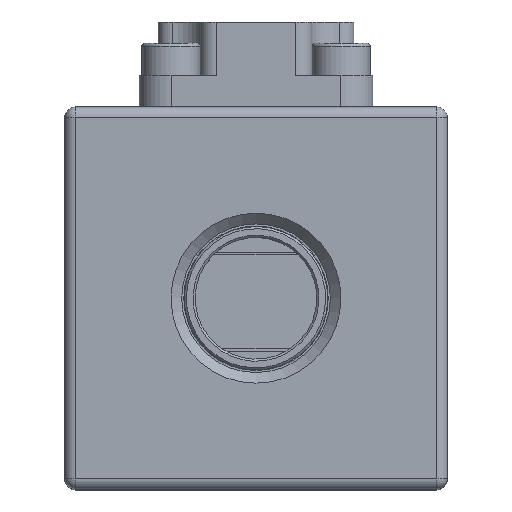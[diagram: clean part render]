
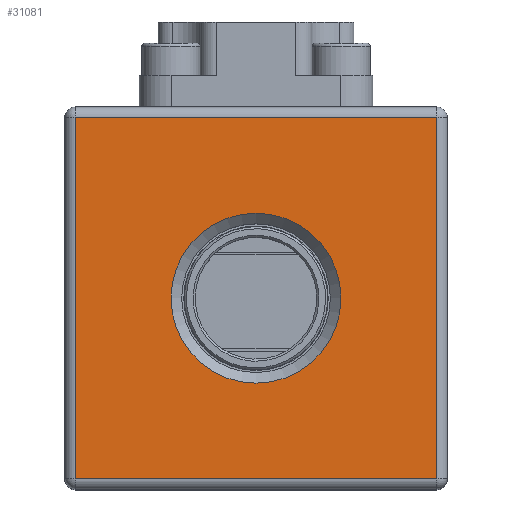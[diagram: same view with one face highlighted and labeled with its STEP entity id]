
A CAD part, top view. The second image highlights one B-rep face of the part: STEP entity #31081.
In plain terms, the highlighted planar face has unit normal (0, 0, 1).
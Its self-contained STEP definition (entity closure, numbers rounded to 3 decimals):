
#530=FACE_BOUND('',#4288,.T.);
#852=PLANE('',#33431);
#2561=FACE_OUTER_BOUND('',#4287,.T.);
#4287=EDGE_LOOP('',(#22794,#22795,#22796,#22797));
#4288=EDGE_LOOP('',(#22798));
#6245=LINE('',#48549,#9401);
#6246=LINE('',#48551,#9402);
#6247=LINE('',#48553,#9403);
#6248=LINE('',#48554,#9404);
#9401=VECTOR('',#37800,10.);
#9402=VECTOR('',#37801,10.);
#9403=VECTOR('',#37802,10.);
#9404=VECTOR('',#37803,10.);
#12312=CIRCLE('',#33426,8.);
#13680=VERTEX_POINT('',#48535);
#13684=VERTEX_POINT('',#48547);
#13685=VERTEX_POINT('',#48548);
#13686=VERTEX_POINT('',#48550);
#13687=VERTEX_POINT('',#48552);
#17039=EDGE_CURVE('',#13680,#13680,#12312,.T.);
#17045=EDGE_CURVE('',#13684,#13685,#6245,.T.);
#17046=EDGE_CURVE('',#13686,#13684,#6246,.T.);
#17047=EDGE_CURVE('',#13687,#13686,#6247,.T.);
#17048=EDGE_CURVE('',#13685,#13687,#6248,.T.);
#22794=ORIENTED_EDGE('',*,*,#17045,.F.);
#22795=ORIENTED_EDGE('',*,*,#17046,.F.);
#22796=ORIENTED_EDGE('',*,*,#17047,.F.);
#22797=ORIENTED_EDGE('',*,*,#17048,.F.);
#22798=ORIENTED_EDGE('',*,*,#17039,.F.);
#31081=ADVANCED_FACE('',(#2561,#530),#852,.F.);
#33426=AXIS2_PLACEMENT_3D('',#48536,#37786,#37787);
#33431=AXIS2_PLACEMENT_3D('',#48546,#37798,#37799);
#37786=DIRECTION('center_axis',(0.,0.,
1.));
#37787=DIRECTION('ref_axis',(1.,0.,0.));
#37798=DIRECTION('center_axis',(0.,0.,
-1.));
#37799=DIRECTION('ref_axis',(1.,0.,0.));
#37800=DIRECTION('',(0.,-1.,0.));
#37801=DIRECTION('',(1.,0.,0.));
#37802=DIRECTION('',(0.,1.,0.));
#37803=DIRECTION('',(-1.,0.,0.));
#48535=CARTESIAN_POINT('',(-8.,0.,6.3));
#48536=CARTESIAN_POINT('Origin',(0.,0.,
6.3));
#48546=CARTESIAN_POINT('Origin',(0.,0.,
6.3));
#48547=CARTESIAN_POINT('',(17.,17.,6.3));
#48548=CARTESIAN_POINT('',(17.,-17.,6.3));
#48549=CARTESIAN_POINT('',(17.,-8.5,6.3));
#48550=CARTESIAN_POINT('',(-17.,17.,6.3));
#48551=CARTESIAN_POINT('',(8.5,17.,6.3));
#48552=CARTESIAN_POINT('',(-17.,-17.,6.3));
#48553=CARTESIAN_POINT('',(-17.,8.5,6.3));
#48554=CARTESIAN_POINT('',(-8.5,-17.,6.3));
